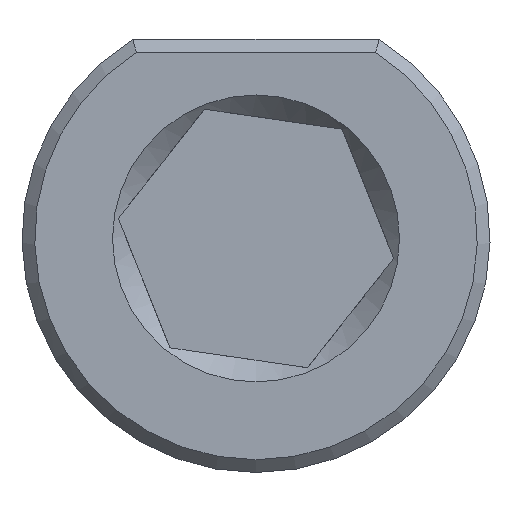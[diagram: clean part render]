
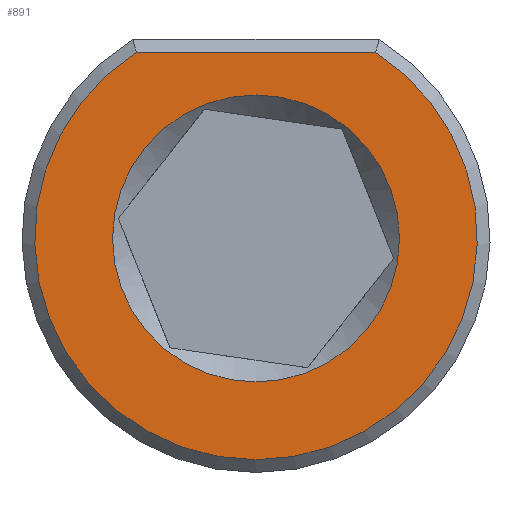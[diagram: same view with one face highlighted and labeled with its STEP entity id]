
A CAD part, front view. The second image highlights one B-rep face of the part: STEP entity #891.
In plain terms, the highlighted planar face has unit normal (0, -1, 0).
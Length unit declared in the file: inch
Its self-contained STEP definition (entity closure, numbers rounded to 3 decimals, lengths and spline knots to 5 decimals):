
#49=PLANE('',#998);
#74=FACE_BOUND('',#232,.T.);
#96=CIRCLE('',#992,0.347);
#101=CIRCLE('',#999,0.225);
#176=FACE_OUTER_BOUND('',#231,.T.);
#231=EDGE_LOOP('',(#670,#671));
#232=EDGE_LOOP('',(#672));
#290=LINE('',#1598,#332);
#332=VECTOR('',#1145,0.3937);
#401=VERTEX_POINT('',#1596);
#402=VERTEX_POINT('',#1597);
#409=VERTEX_POINT('',#1626);
#501=EDGE_CURVE('',#401,#402,#290,.T.);
#506=EDGE_CURVE('',#402,#401,#96,.T.);
#514=EDGE_CURVE('',#409,#409,#101,.T.);
#670=ORIENTED_EDGE('',*,*,#501,.F.);
#671=ORIENTED_EDGE('',*,*,#506,.F.);
#672=ORIENTED_EDGE('',*,*,#514,.F.);
#891=ADVANCED_FACE('',(#176,#74),#49,.T.);
#992=AXIS2_PLACEMENT_3D('',#1612,#1151,#1152);
#998=AXIS2_PLACEMENT_3D('',#1625,#1166,#1167);
#999=AXIS2_PLACEMENT_3D('',#1627,#1168,#1169);
#1145=DIRECTION('',(1.,0.,0.));
#1151=DIRECTION('center_axis',(0.,1.,0.));
#1152=DIRECTION('ref_axis',(0.,0.,-1.));
#1166=DIRECTION('center_axis',(0.,-1.,0.));
#1167=DIRECTION('ref_axis',(0.,0.,-1.));
#1168=DIRECTION('center_axis',(0.,-1.,0.));
#1169=DIRECTION('ref_axis',(0.,0.,1.));
#1596=CARTESIAN_POINT('',(-0.18747,0.,0.292));
#1597=CARTESIAN_POINT('',(0.18747,0.,0.292));
#1598=CARTESIAN_POINT('',(0.09662,0.,0.292));
#1612=CARTESIAN_POINT('Origin',(0.,0.,0.));
#1625=CARTESIAN_POINT('Origin',(0.,0.,-0.185));
#1626=CARTESIAN_POINT('',(0.,0.,-0.225));
#1627=CARTESIAN_POINT('Origin',(0.,0.,0.));
